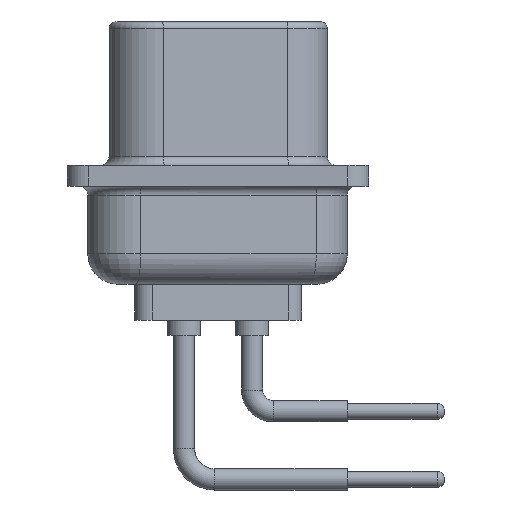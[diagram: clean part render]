
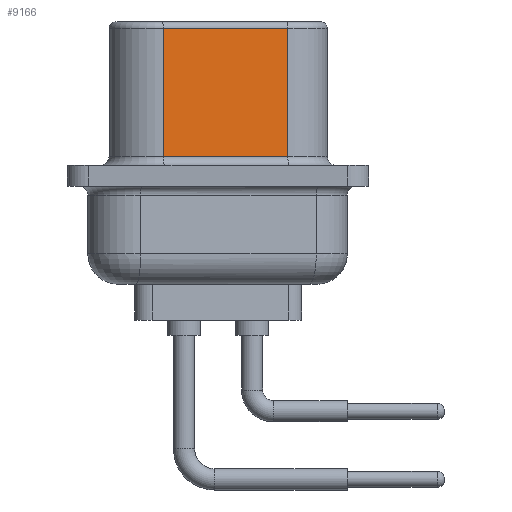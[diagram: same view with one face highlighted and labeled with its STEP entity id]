
A CAD part, left-side view. The second image highlights one B-rep face of the part: STEP entity #9166.
In plain terms, the highlighted planar face has unit normal (-0.987, -0.159, 0).
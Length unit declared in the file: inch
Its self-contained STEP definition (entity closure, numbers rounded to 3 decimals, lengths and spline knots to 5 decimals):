
#535 = EDGE_CURVE ( 'NONE', #9043, #14908, #2440, .T. ) ;
#704 = DIRECTION ( 'NONE',  ( -0.159, 0.987, 0. ) ) ;
#1385 = CARTESIAN_POINT ( 'NONE',  ( 0.29119, 0.13326, 0.226 ) ) ;
#2116 = ORIENTED_EDGE ( 'NONE', *, *, #12287, .T. ) ;
#2440 = LINE ( 'NONE', #7081, #16059 ) ;
#3630 = ORIENTED_EDGE ( 'NONE', *, *, #11075, .T. ) ;
#3659 = ORIENTED_EDGE ( 'NONE', *, *, #535, .T. ) ;
#3868 = CARTESIAN_POINT ( 'NONE',  ( 0.29119, 0.13326, 0.236 ) ) ;
#4169 = VERTEX_POINT ( 'NONE', #7326 ) ;
#5751 = AXIS2_PLACEMENT_3D ( 'NONE', #3868, #8500, #7159 ) ;
#6112 = CARTESIAN_POINT ( 'NONE',  ( 0.25819, 0.33826, 0.015 ) ) ;
#6265 = VECTOR ( 'NONE', #704, 39.37008 ) ;
#6676 = FACE_OUTER_BOUND ( 'NONE', #12568, .T. ) ;
#7081 = CARTESIAN_POINT ( 'NONE',  ( 0.25819, 0.33826, 0.236 ) ) ;
#7159 = DIRECTION ( 'NONE',  ( -0.159, 0.987, 0. ) ) ;
#7326 = CARTESIAN_POINT ( 'NONE',  ( 0.29119, 0.13326, 0.015 ) ) ;
#7640 = CARTESIAN_POINT ( 'NONE',  ( 0.29119, 0.13326, 0.236 ) ) ;
#7731 = EDGE_CURVE ( 'NONE', #16227, #4169, #13420, .T. ) ;
#7847 = LINE ( 'NONE', #9471, #6265 ) ;
#8208 = PLANE ( 'NONE',  #5751 ) ;
#8500 = DIRECTION ( 'NONE',  ( 0.987, 0.159, 0. ) ) ;
#9043 = VERTEX_POINT ( 'NONE', #14712 ) ;
#9166 = ADVANCED_FACE ( 'NONE', ( #6676 ), #8208, .F. ) ;
#9471 = CARTESIAN_POINT ( 'NONE',  ( 0.29119, 0.13326, 0.226 ) ) ;
#10223 = CARTESIAN_POINT ( 'NONE',  ( 0.29119, 0.13326, 0.015 ) ) ;
#11075 = EDGE_CURVE ( 'NONE', #14908, #4169, #17558, .T. ) ;
#11537 = VECTOR ( 'NONE', #13231, 39.37008 ) ;
#12287 = EDGE_CURVE ( 'NONE', #16227, #9043, #7847, .T. ) ;
#12568 = EDGE_LOOP ( 'NONE', ( #3659, #3630, #14552, #2116 ) ) ;
#13231 = DIRECTION ( 'NONE',  ( 0.159, -0.987, 0. ) ) ;
#13420 = LINE ( 'NONE', #7640, #15265 ) ;
#13792 = DIRECTION ( 'NONE',  ( 0., 0., -1. ) ) ;
#14552 = ORIENTED_EDGE ( 'NONE', *, *, #7731, .F. ) ;
#14712 = CARTESIAN_POINT ( 'NONE',  ( 0.25819, 0.33826, 0.226 ) ) ;
#14908 = VERTEX_POINT ( 'NONE', #6112 ) ;
#15265 = VECTOR ( 'NONE', #13792, 39.37008 ) ;
#16059 = VECTOR ( 'NONE', #17004, 39.37008 ) ;
#16227 = VERTEX_POINT ( 'NONE', #1385 ) ;
#17004 = DIRECTION ( 'NONE',  ( 0., 0., -1. ) ) ;
#17558 = LINE ( 'NONE', #10223, #11537 ) ;
